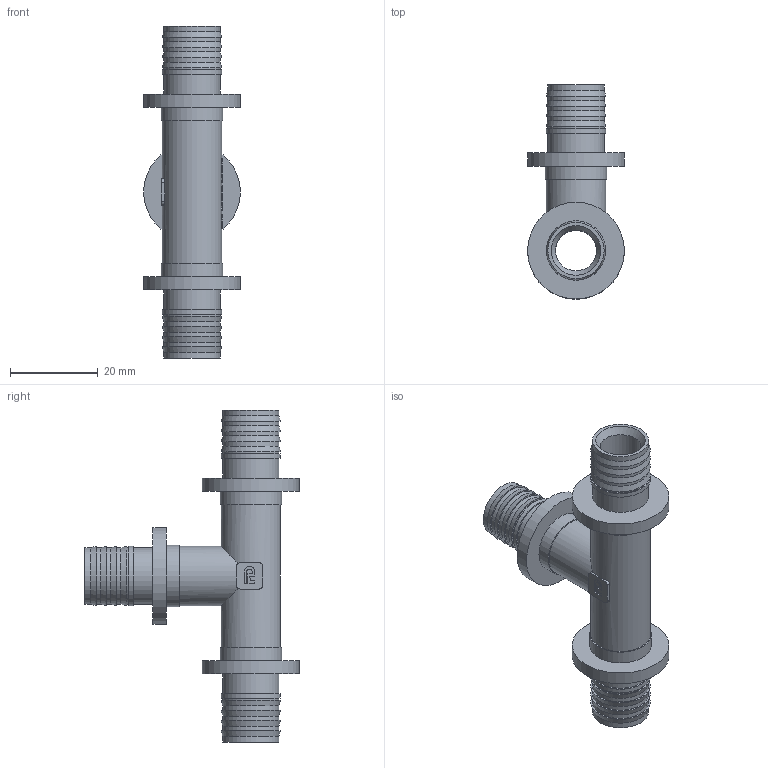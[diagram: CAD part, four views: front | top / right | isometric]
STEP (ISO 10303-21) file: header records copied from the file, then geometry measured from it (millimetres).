
FILE_DESCRIPTION(/* description */ (''),/* implementation_level */ '2;1');
FILE_NAME(/* name */ 'C:\Users\Doom\Desktop\Фадотех\Натяжка\FD-SFT01 NEW 18.12.2019\FD-SFT01 NEW 18.12.2019.stp',/* time_stamp */ '2022-07-24T13:04:11+03:00',/* author */ ('Doom'),/* organization */ (''),/* preprocessor_version */ 'ST-DEVELOPER v18',/* originating_system */ 'Autodesk Inventor 2020',/* authorisation */ '');
FILE_SCHEMA (('AUTOMOTIVE_DESIGN { 1 0 10303 214 3 1 1 }'));
Length unit declared in the file: millimetre
Products named in the file (1): FD-SFT01 NEW 18.12.2019
Bounding box: 22 x 48.75 x 75.5 mm (x, y, z)
Volume: 9615.2 mm3; surface area: 9659.7 mm2
Topology: 1 solids, 1 shells, 236 faces, 647 edges, 452 vertices
Faces by surface type: bspline 92, plane 87, cylinder 42, cone 15
Full cylindrical faces by diameter (mm): 9.3 x2, 12.8 x18, 13.5 x5, 14 x3, 22 x3
Entity records: 9689 total; most frequent: CARTESIAN_POINT 4018, ORIENTED_EDGE 1294, DIRECTION 945, EDGE_CURVE 647, VERTEX_POINT 452, AXIS2_PLACEMENT_3D 342, EDGE_LOOP 279, LINE 261
